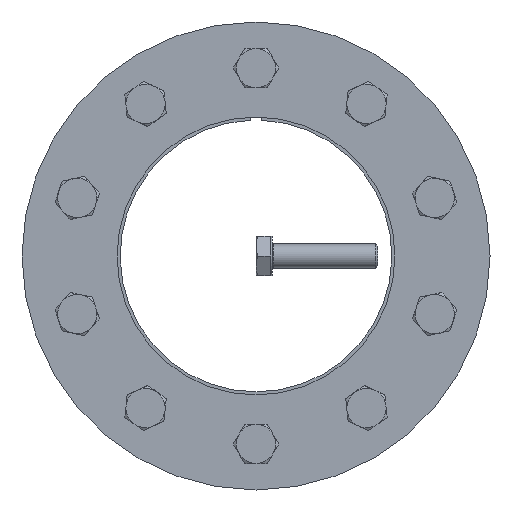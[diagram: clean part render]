
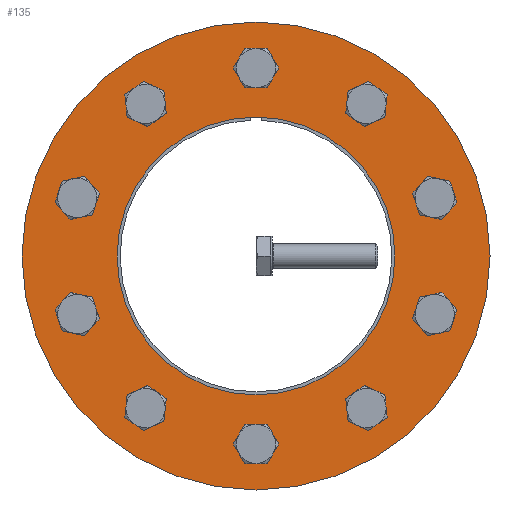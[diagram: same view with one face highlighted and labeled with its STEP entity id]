
A CAD part, front view. The second image highlights one B-rep face of the part: STEP entity #135.
In plain terms, the highlighted planar face has unit normal (0, -1, 0).
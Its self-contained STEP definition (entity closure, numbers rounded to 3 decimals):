
#135 = ADVANCED_FACE( '', ( #327, #328, #329, #330, #331, #332, #333, #334, #335, #336, #337, #338 ), #339, .F. );
#327 = FACE_BOUND( '', #560, .T. );
#328 = FACE_BOUND( '', #561, .T. );
#329 = FACE_BOUND( '', #562, .T. );
#330 = FACE_BOUND( '', #563, .T. );
#331 = FACE_BOUND( '', #564, .T. );
#332 = FACE_BOUND( '', #565, .T. );
#333 = FACE_OUTER_BOUND( '', #566, .T. );
#334 = FACE_BOUND( '', #567, .T. );
#335 = FACE_BOUND( '', #568, .T. );
#336 = FACE_BOUND( '', #569, .T. );
#337 = FACE_BOUND( '', #570, .T. );
#338 = FACE_BOUND( '', #571, .T. );
#339 = PLANE( '', #572 );
#560 = EDGE_LOOP( '', ( #904 ) );
#561 = EDGE_LOOP( '', ( #905 ) );
#562 = EDGE_LOOP( '', ( #906 ) );
#563 = EDGE_LOOP( '', ( #907 ) );
#564 = EDGE_LOOP( '', ( #908 ) );
#565 = EDGE_LOOP( '', ( #909 ) );
#566 = EDGE_LOOP( '', ( #910 ) );
#567 = EDGE_LOOP( '', ( #911 ) );
#568 = EDGE_LOOP( '', ( #912 ) );
#569 = EDGE_LOOP( '', ( #913 ) );
#570 = EDGE_LOOP( '', ( #914 ) );
#571 = EDGE_LOOP( '', ( #915 ) );
#572 = AXIS2_PLACEMENT_3D( '', #916, #917, #918 );
#904 = ORIENTED_EDGE( '', *, *, #1117, .T. );
#905 = ORIENTED_EDGE( '', *, *, #1141, .T. );
#906 = ORIENTED_EDGE( '', *, *, #1198, .T. );
#907 = ORIENTED_EDGE( '', *, *, #1170, .T. );
#908 = ORIENTED_EDGE( '', *, *, #1131, .T. );
#909 = ORIENTED_EDGE( '', *, *, #1199, .F. );
#910 = ORIENTED_EDGE( '', *, *, #1200, .T. );
#911 = ORIENTED_EDGE( '', *, *, #1128, .T. );
#912 = ORIENTED_EDGE( '', *, *, #1196, .T. );
#913 = ORIENTED_EDGE( '', *, *, #1125, .T. );
#914 = ORIENTED_EDGE( '', *, *, #1181, .T. );
#915 = ORIENTED_EDGE( '', *, *, #1201, .T. );
#916 = CARTESIAN_POINT( '', ( 0., -19.5, 77.5 ) );
#917 = DIRECTION( '', ( 0., 1., 0. ) );
#918 = DIRECTION( '', ( 0., 0., 1. ) );
#1117 = EDGE_CURVE( '', #1320, #1320, #1321, .T. );
#1125 = EDGE_CURVE( '', #1334, #1334, #1335, .T. );
#1128 = EDGE_CURVE( '', #1339, #1339, #1340, .T. );
#1131 = EDGE_CURVE( '', #1344, #1344, #1345, .T. );
#1141 = EDGE_CURVE( '', #1361, #1361, #1362, .T. );
#1170 = EDGE_CURVE( '', #1412, #1412, #1413, .T. );
#1181 = EDGE_CURVE( '', #1427, #1427, #1428, .T. );
#1196 = EDGE_CURVE( '', #1447, #1447, #1448, .T. );
#1198 = EDGE_CURVE( '', #1450, #1450, #1451, .T. );
#1199 = EDGE_CURVE( '', #1452, #1452, #1453, .T. );
#1200 = EDGE_CURVE( '', #1454, #1454, #1455, .T. );
#1201 = EDGE_CURVE( '', #1456, #1456, #1457, .T. );
#1320 = VERTEX_POINT( '', #1694 );
#1321 = CIRCLE( '', #1695, 4. );
#1334 = VERTEX_POINT( '', #1714 );
#1335 = CIRCLE( '', #1715, 4. );
#1339 = VERTEX_POINT( '', #1719 );
#1340 = CIRCLE( '', #1720, 4. );
#1344 = VERTEX_POINT( '', #1724 );
#1345 = CIRCLE( '', #1725, 4. );
#1361 = VERTEX_POINT( '', #1743 );
#1362 = CIRCLE( '', #1744, 4. );
#1412 = VERTEX_POINT( '', #1797 );
#1413 = CIRCLE( '', #1798, 4. );
#1427 = VERTEX_POINT( '', #1821 );
#1428 = CIRCLE( '', #1822, 4. );
#1447 = VERTEX_POINT( '', #1848 );
#1448 = CIRCLE( '', #1849, 4. );
#1450 = VERTEX_POINT( '', #1851 );
#1451 = CIRCLE( '', #1852, 4. );
#1452 = VERTEX_POINT( '', #1853 );
#1453 = CIRCLE( '', #1854, 46. );
#1454 = VERTEX_POINT( '', #1855 );
#1455 = CIRCLE( '', #1856, 77.5 );
#1456 = VERTEX_POINT( '', #1857 );
#1457 = CIRCLE( '', #1858, 4. );
#1694 = CARTESIAN_POINT( '', ( -57.967, -19.5, 23.041 ) );
#1695 = AXIS2_PLACEMENT_3D( '', #1984, #1985, #1986 );
#1714 = CARTESIAN_POINT( '', ( -4., -19.5, -62.25 ) );
#1715 = AXIS2_PLACEMENT_3D( '', #1996, #1997, #1998 );
#1719 = CARTESIAN_POINT( '', ( 39.826, -19.5, 48.01 ) );
#1720 = AXIS2_PLACEMENT_3D( '', #2002, #2003, #2004 );
#1724 = CARTESIAN_POINT( '', ( 4., -19.5, 62.25 ) );
#1725 = AXIS2_PLACEMENT_3D( '', #2008, #2009, #2010 );
#1743 = CARTESIAN_POINT( '', ( -39.826, -19.5, -48.01 ) );
#1744 = AXIS2_PLACEMENT_3D( '', #2025, #2026, #2027 );
#1797 = CARTESIAN_POINT( '', ( 60.439, -19.5, 15.432 ) );
#1798 = AXIS2_PLACEMENT_3D( '', #2088, #2089, #2090 );
#1821 = CARTESIAN_POINT( '', ( -60.439, -19.5, -15.432 ) );
#1822 = AXIS2_PLACEMENT_3D( '', #2097, #2098, #2099 );
#1848 = CARTESIAN_POINT( '', ( 57.967, -19.5, -23.041 ) );
#1849 = AXIS2_PLACEMENT_3D( '', #2113, #2114, #2115 );
#1851 = CARTESIAN_POINT( '', ( 33.354, -19.5, -52.712 ) );
#1852 = AXIS2_PLACEMENT_3D( '', #2116, #2117, #2118 );
#1853 = CARTESIAN_POINT( '', ( 0., -19.5, -46. ) );
#1854 = AXIS2_PLACEMENT_3D( '', #2119, #2120, #2121 );
#1855 = CARTESIAN_POINT( '', ( 0., -19.5, -77.5 ) );
#1856 = AXIS2_PLACEMENT_3D( '', #2122, #2123, #2124 );
#1857 = CARTESIAN_POINT( '', ( -33.354, -19.5, 52.712 ) );
#1858 = AXIS2_PLACEMENT_3D( '', #2125, #2126, #2127 );
#1984 = CARTESIAN_POINT( '', ( -59.203, -19.5, 19.236 ) );
#1985 = DIRECTION( '', ( 0., 1., 0. ) );
#1986 = DIRECTION( '', ( 0.309, 0., 0.951 ) );
#1996 = CARTESIAN_POINT( '', ( 0., -19.5, -62.25 ) );
#1997 = DIRECTION( '', ( 0., 1., 0. ) );
#1998 = DIRECTION( '', ( -1., 0., 0. ) );
#2002 = CARTESIAN_POINT( '', ( 36.59, -19.5, 50.361 ) );
#2003 = DIRECTION( '', ( 0., 1., 0. ) );
#2004 = DIRECTION( '', ( 0.809, 0., -0.588 ) );
#2008 = CARTESIAN_POINT( '', ( 0., -19.5, 62.25 ) );
#2009 = DIRECTION( '', ( 0., 1., 0. ) );
#2010 = DIRECTION( '', ( 1., 0., 0. ) );
#2025 = CARTESIAN_POINT( '', ( -36.59, -19.5, -50.361 ) );
#2026 = DIRECTION( '', ( 0., 1., 0. ) );
#2027 = DIRECTION( '', ( -0.809, 0., 0.588 ) );
#2088 = CARTESIAN_POINT( '', ( 59.203, -19.5, 19.236 ) );
#2089 = DIRECTION( '', ( 0., 1., 0. ) );
#2090 = DIRECTION( '', ( 0.309, 0., -0.951 ) );
#2097 = CARTESIAN_POINT( '', ( -59.203, -19.5, -19.236 ) );
#2098 = DIRECTION( '', ( 0., 1., 0. ) );
#2099 = DIRECTION( '', ( -0.309, 0., 0.951 ) );
#2113 = CARTESIAN_POINT( '', ( 59.203, -19.5, -19.236 ) );
#2114 = DIRECTION( '', ( 0., 1., 0. ) );
#2115 = DIRECTION( '', ( -0.309, 0., -0.951 ) );
#2116 = CARTESIAN_POINT( '', ( 36.59, -19.5, -50.361 ) );
#2117 = DIRECTION( '', ( 0., 1., 0. ) );
#2118 = DIRECTION( '', ( -0.809, 0., -0.588 ) );
#2119 = CARTESIAN_POINT( '', ( 0., -19.5, 0. ) );
#2120 = DIRECTION( '', ( 0., -1., 0. ) );
#2121 = DIRECTION( '', ( 0., 0., -1. ) );
#2122 = CARTESIAN_POINT( '', ( 0., -19.5, 0. ) );
#2123 = DIRECTION( '', ( 0., -1., 0. ) );
#2124 = DIRECTION( '', ( 0., 0., -1. ) );
#2125 = CARTESIAN_POINT( '', ( -36.59, -19.5, 50.361 ) );
#2126 = DIRECTION( '', ( 0., 1., 0. ) );
#2127 = DIRECTION( '', ( 0.809, 0., 0.588 ) );
